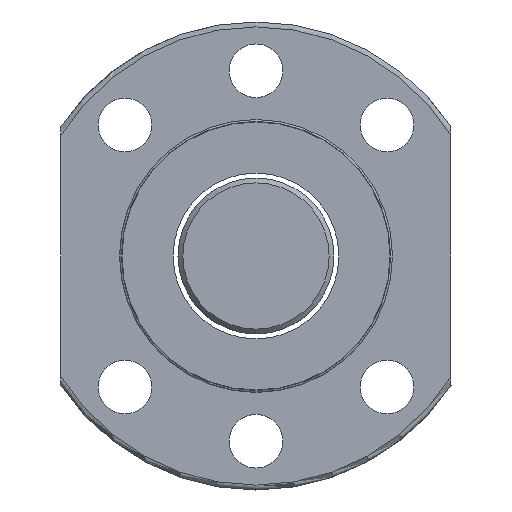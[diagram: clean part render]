
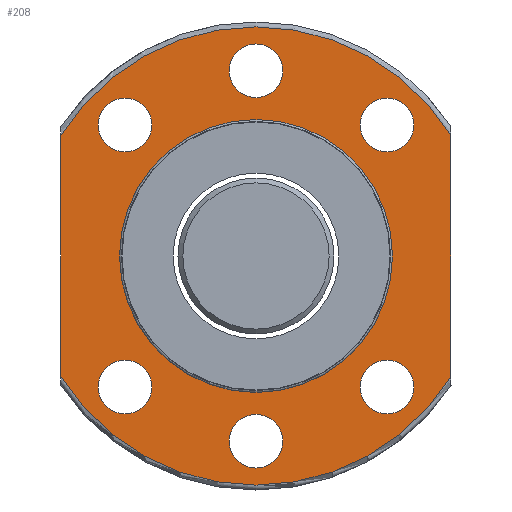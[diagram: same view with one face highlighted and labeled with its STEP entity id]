
A CAD part, left-side view. The second image highlights one B-rep face of the part: STEP entity #208.
In plain terms, the highlighted planar face has unit normal (-1, 0, 0).
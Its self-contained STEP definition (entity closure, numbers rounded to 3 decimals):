
#106=PLANE('',#622);
#124=FACE_BOUND('',#275,.T.);
#125=FACE_BOUND('',#276,.T.);
#126=FACE_BOUND('',#277,.T.);
#127=FACE_BOUND('',#278,.T.);
#128=FACE_BOUND('',#279,.T.);
#129=FACE_BOUND('',#280,.T.);
#130=FACE_BOUND('',#281,.T.);
#191=LINE('',#1049,#199);
#192=LINE('',#1050,#200);
#199=VECTOR('',#733,1.);
#200=VECTOR('',#734,1.);
#208=ADVANCED_FACE('',(#124,#125,#126,#127,#128,#129,#130,#248),#106,.F.);
#248=FACE_OUTER_BOUND('',#282,.T.);
#275=EDGE_LOOP('',(#407));
#276=EDGE_LOOP('',(#408));
#277=EDGE_LOOP('',(#409));
#278=EDGE_LOOP('',(#410));
#279=EDGE_LOOP('',(#411));
#280=EDGE_LOOP('',(#412));
#281=EDGE_LOOP('',(#413));
#282=EDGE_LOOP('',(#414,#415,#416,#417));
#336=CIRCLE('',#598,23.5);
#347=CIRCLE('',#613,23.5);
#348=CIRCLE('',#615,2.75);
#349=CIRCLE('',#616,2.75);
#350=CIRCLE('',#617,2.75);
#351=CIRCLE('',#618,2.75);
#352=CIRCLE('',#619,2.75);
#353=CIRCLE('',#620,2.75);
#354=CIRCLE('',#621,14.);
#407=ORIENTED_EDGE('',*,*,#558,.T.);
#408=ORIENTED_EDGE('',*,*,#559,.T.);
#409=ORIENTED_EDGE('',*,*,#560,.T.);
#410=ORIENTED_EDGE('',*,*,#561,.T.);
#411=ORIENTED_EDGE('',*,*,#562,.T.);
#412=ORIENTED_EDGE('',*,*,#563,.T.);
#413=ORIENTED_EDGE('',*,*,#564,.T.);
#414=ORIENTED_EDGE('',*,*,#556,.F.);
#415=ORIENTED_EDGE('',*,*,#565,.T.);
#416=ORIENTED_EDGE('',*,*,#538,.F.);
#417=ORIENTED_EDGE('',*,*,#566,.F.);
#488=VERTEX_POINT('',#899);
#489=VERTEX_POINT('',#922);
#503=VERTEX_POINT('',#1012);
#504=VERTEX_POINT('',#1014);
#505=VERTEX_POINT('',#1036);
#506=VERTEX_POINT('',#1038);
#507=VERTEX_POINT('',#1040);
#508=VERTEX_POINT('',#1042);
#509=VERTEX_POINT('',#1044);
#510=VERTEX_POINT('',#1046);
#511=VERTEX_POINT('',#1048);
#538=EDGE_CURVE('',#489,#488,#336,.T.);
#556=EDGE_CURVE('',#503,#504,#347,.T.);
#558=EDGE_CURVE('',#505,#505,#348,.T.);
#559=EDGE_CURVE('',#506,#506,#349,.T.);
#560=EDGE_CURVE('',#507,#507,#350,.T.);
#561=EDGE_CURVE('',#508,#508,#351,.T.);
#562=EDGE_CURVE('',#509,#509,#352,.T.);
#563=EDGE_CURVE('',#510,#510,#353,.T.);
#564=EDGE_CURVE('',#511,#511,#354,.T.);
#565=EDGE_CURVE('',#503,#488,#191,.T.);
#566=EDGE_CURVE('',#504,#489,#192,.T.);
#598=AXIS2_PLACEMENT_3D('',#923,#681,#682);
#613=AXIS2_PLACEMENT_3D('',#1013,#715,#716);
#615=AXIS2_PLACEMENT_3D('',#1035,#719,#720);
#616=AXIS2_PLACEMENT_3D('',#1037,#721,#722);
#617=AXIS2_PLACEMENT_3D('',#1039,#723,#724);
#618=AXIS2_PLACEMENT_3D('',#1041,#725,#726);
#619=AXIS2_PLACEMENT_3D('',#1043,#727,#728);
#620=AXIS2_PLACEMENT_3D('',#1045,#729,#730);
#621=AXIS2_PLACEMENT_3D('',#1047,#731,#732);
#622=AXIS2_PLACEMENT_3D('',#1051,#735,#736);
#681=DIRECTION('',(1.,0.,0.));
#682=DIRECTION('',(0.,0.,-1.));
#715=DIRECTION('',(1.,0.,0.));
#716=DIRECTION('',(0.,0.,-1.));
#719=DIRECTION('',(1.,0.,0.));
#720=DIRECTION('',(0.,0.,-1.));
#721=DIRECTION('',(1.,0.,0.));
#722=DIRECTION('',(0.,0.,-1.));
#723=DIRECTION('',(1.,0.,0.));
#724=DIRECTION('',(0.,0.,-1.));
#725=DIRECTION('',(1.,0.,0.));
#726=DIRECTION('',(0.,0.,-1.));
#727=DIRECTION('',(1.,0.,0.));
#728=DIRECTION('',(0.,0.,-1.));
#729=DIRECTION('',(1.,0.,0.));
#730=DIRECTION('',(0.,0.,-1.));
#731=DIRECTION('',(1.,0.,0.));
#732=DIRECTION('',(0.,0.,-1.));
#733=DIRECTION('',(0.,0.,-1.));
#734=DIRECTION('',(0.,0.,-1.));
#735=DIRECTION('',(1.,0.,0.));
#736=DIRECTION('',(0.,0.,-1.));
#899=CARTESIAN_POINT('',(-27.646,20.,-12.339));
#922=CARTESIAN_POINT('',(-27.646,-20.,-12.339));
#923=CARTESIAN_POINT('',(-27.646,0.,0.));
#1012=CARTESIAN_POINT('',(-27.646,20.,12.339));
#1013=CARTESIAN_POINT('',(-27.646,0.,0.));
#1014=CARTESIAN_POINT('',(-27.646,-20.,12.339));
#1035=CARTESIAN_POINT('',(-27.646,0.,-19.));
#1036=CARTESIAN_POINT('',(-27.646,0.,-21.75));
#1037=CARTESIAN_POINT('',(-27.646,0.,19.));
#1038=CARTESIAN_POINT('',(-27.646,0.,16.25));
#1039=CARTESIAN_POINT('',(-27.646,13.435,-13.435));
#1040=CARTESIAN_POINT('',(-27.646,13.435,-16.185));
#1041=CARTESIAN_POINT('',(-27.646,-13.435,-13.435));
#1042=CARTESIAN_POINT('',(-27.646,-13.435,-16.185));
#1043=CARTESIAN_POINT('',(-27.646,-13.435,13.435));
#1044=CARTESIAN_POINT('',(-27.646,-13.435,10.685));
#1045=CARTESIAN_POINT('',(-27.646,13.435,13.435));
#1046=CARTESIAN_POINT('',(-27.646,13.435,10.685));
#1047=CARTESIAN_POINT('',(-27.646,0.,0.));
#1048=CARTESIAN_POINT('',(-27.646,0.,-14.));
#1049=CARTESIAN_POINT('',(-27.646,20.,0.));
#1050=CARTESIAN_POINT('',(-27.646,-20.,0.));
#1051=CARTESIAN_POINT('',(-27.646,18.75,0.));
